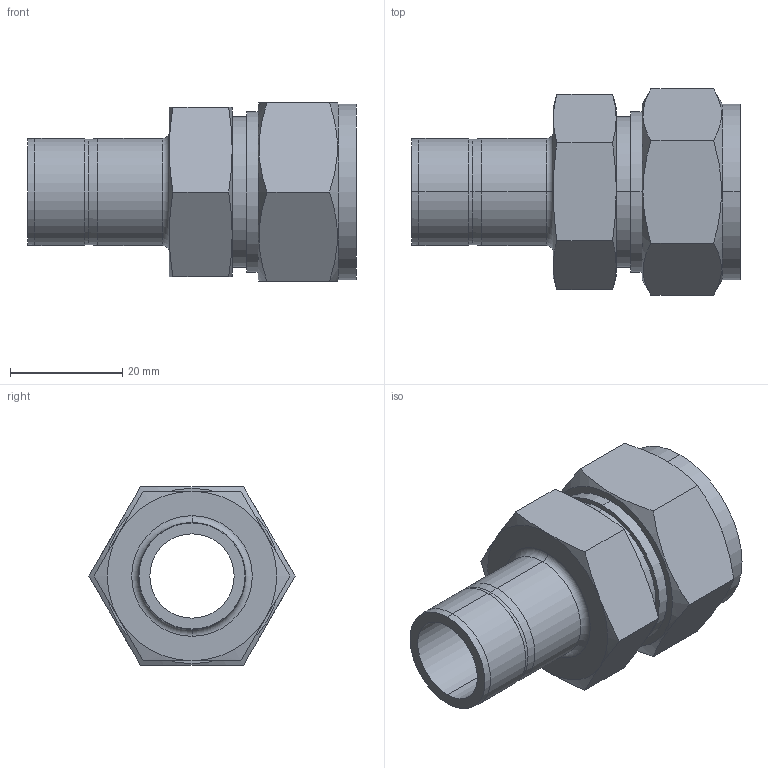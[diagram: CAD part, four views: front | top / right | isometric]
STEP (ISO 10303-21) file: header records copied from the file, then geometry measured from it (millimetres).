
FILE_DESCRIPTION (( 'STEP AP203' ), '1' );
FILE_NAME ('DRE14-12 SS.STEP', '2009-09-08T08:38:58', ( ' ' ), ( '' ), 'SwSTEP 2.0', 'SolidWorks 2008', '' );
FILE_SCHEMA (( 'CONFIG_CONTROL_DESIGN' ));
Length unit declared in the file: millimetre
Products named in the file (1): DRE14-12 SS
Bounding box: 58.5 x 36.66 x 31.75 mm (x, y, z)
Volume: 17494.6 mm3; surface area: 9966.8 mm2
Topology: 1 solids, 1 shells, 63 faces, 138 edges, 82 vertices
Faces by surface type: cone 24, plane 19, cylinder 18, torus 2
Entity records: 1973 total; most frequent: CARTESIAN_POINT 548, DIRECTION 282, ORIENTED_EDGE 276, EDGE_CURVE 138, AXIS2_PLACEMENT_3D 120, VERTEX_POINT 82, EDGE_LOOP 70, ADVANCED_FACE 63
